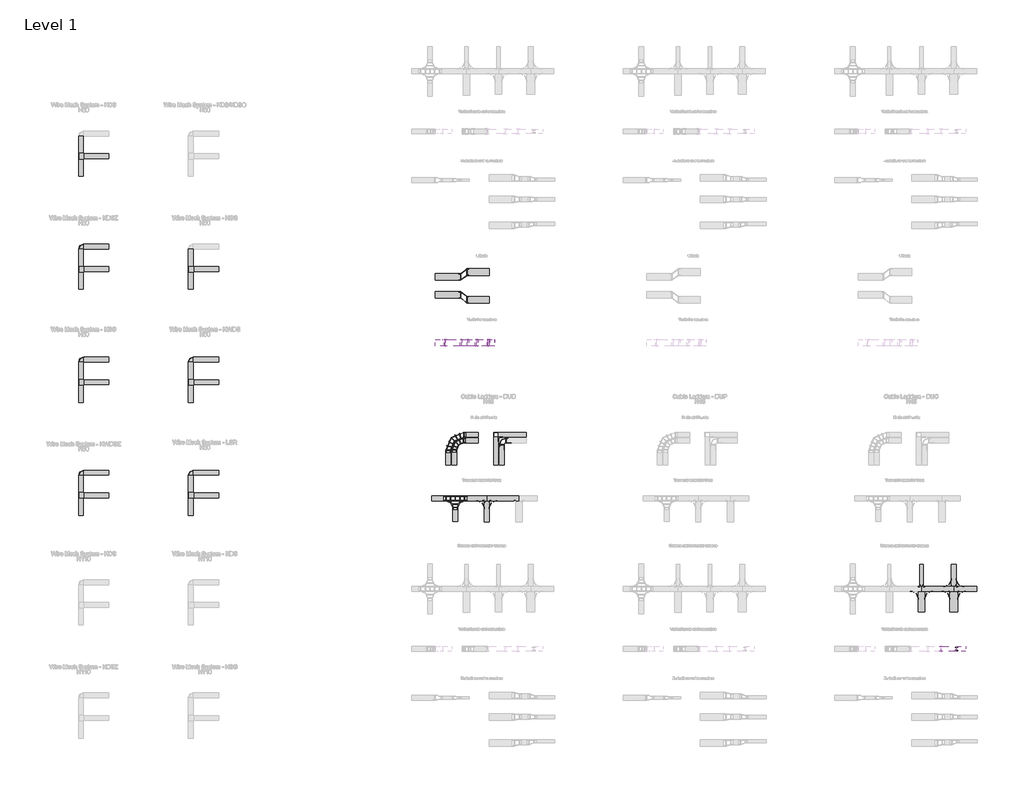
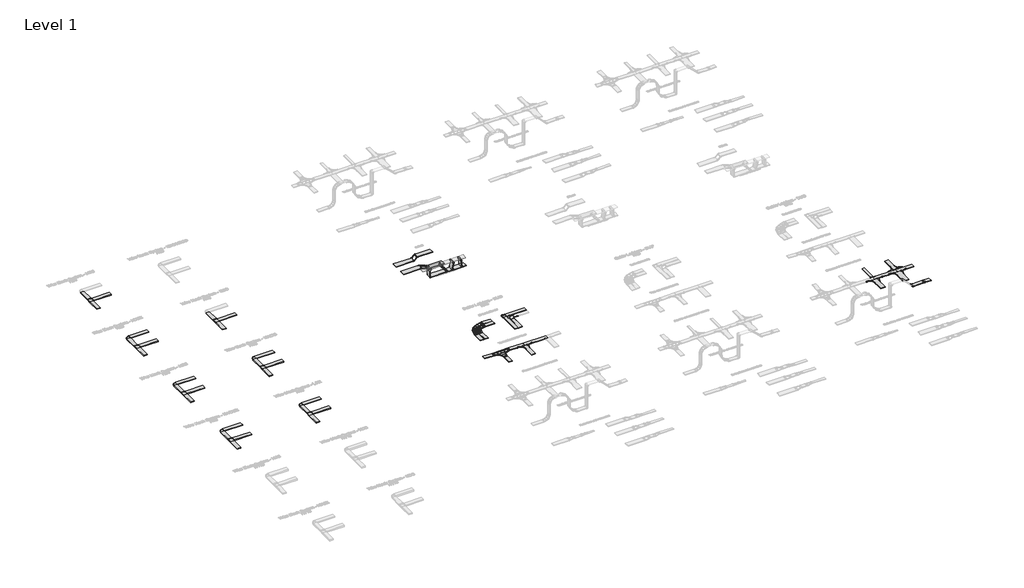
# One storey, part 11 of 106: 63 cable carrier segments, 59 cable carrier fittings.
"""IFC4 building model written with IfcOpenShell, lengths in millimetres."""

from ifc_helpers import new_model, si_unit, frame, origin, origin_with_axes, place, context, project, spatial, polyline, outline, extrude, transform, mapped, element, save
from components import cable_carrier_fitting_ce1f183e, cable_carrier_fitting_5924018d, cable_carrier_fitting_c78842c5, cable_carrier_fitting_c1e814a0, cable_carrier_fitting_6b69b3b7, cable_carrier_fitting_2d894193, cable_carrier_fitting_655502a1, cable_carrier_fitting_0f11f104, cable_carrier_fitting_c89aad98, cable_carrier_fitting_8b1f635d, cable_carrier_fitting_d30d66bc, cable_carrier_fitting_8d7dc52b, cable_carrier_fitting_6c66d9f1, cable_carrier_fitting_4c1293df, cable_carrier_fitting_cb814f34, cable_carrier_fitting_a9217249, cable_carrier_fitting_0282ae3e, cable_carrier_fitting_7be8867b, cable_carrier_fitting_6104b6d9, cable_carrier_fitting_ba505e55, cable_carrier_fitting_958e6ea8, cable_carrier_fitting_c25b36c4, cable_carrier_fitting_df7fb664, cable_carrier_fitting_384de159, cable_carrier_fitting_cef1446e, cable_carrier_fitting_671e1b7f, cable_carrier_fitting_ea2b664d, cable_carrier_fitting_d4fd6989, cable_carrier_fitting_d229e209, cable_carrier_fitting_ca44e503

model = new_model("IFC4")

# Units and contexts
model_context = context("Model", 3, world=origin())
ifc_project = project(units=[si_unit("LENGTHUNIT", "METRE", prefix="MILLI")], contexts=[model_context])

# Site, building, storey
site = spatial("IfcSite", under=ifc_project)
building = spatial("IfcBuilding", under=site)
storey = spatial("IfcBuildingStorey", under=building, Name="Level 1", Elevation=0.0)

# Cable carrier fittings
placement = place(None, origin())
cable_carrier_fitting_shape = cable_carrier_fitting_ce1f183e(model_context)
element("IfcCableCarrierFitting", 1, ObjectType="BAKS_Mesh horizontal bend : KKSZ_H60", at=placement, inside=storey, context=model_context, shape_type="MappedRepresentation", body=[
    mapped(cable_carrier_fitting_shape, transform((5569.4167945, 42270.1887189, 30.0), x_axis=(-1.0, 0.0, 0.0), y_axis=(0.0, -1.0, 0.0), z_axis=(0.0, 0.0, 1.0))),
])
element("IfcCableCarrierFitting", 2, ObjectType="BAKS_Mesh horizontal bend : KKSZ_H60", at=placement, inside=storey, context=model_context, shape_type="MappedRepresentation", body=[
    mapped(cable_carrier_fitting_shape, transform((12269.4167945, 35370.1887189, 30.0), x_axis=(-1.0, 0.0, 0.0), y_axis=(0.0, -1.0, 0.0), z_axis=(0.0, 0.0, 1.0))),
])
element("IfcCableCarrierFitting", 3, ObjectType="BAKS_Mesh horizontal bend : KKSZ_H60", at=placement, inside=storey, context=model_context, shape_type="MappedRepresentation", body=[
    mapped(cable_carrier_fitting_shape, transform((5569.4167945, 35370.1887189, 30.0), x_axis=(-1.0, 0.0, 0.0), y_axis=(0.0, -1.0, 0.0), z_axis=(0.0, 0.0, 1.0))),
])
element("IfcCableCarrierFitting", 4, ObjectType="BAKS_Mesh horizontal bend : KKSZ_H60", at=placement, inside=storey, context=model_context, shape_type="MappedRepresentation", body=[
    mapped(cable_carrier_fitting_shape, transform((12269.4167945, 42270.1887189, 30.0), x_axis=(-1.0, 0.0, 0.0), y_axis=(0.0, -1.0, 0.0), z_axis=(0.0, 0.0, 1.0))),
])
element("IfcCableCarrierFitting", 5, ObjectType="BAKS_Mesh horizontal bend : KKSZ_H60", at=placement, inside=storey, context=model_context, shape_type="MappedRepresentation", body=[
    mapped(cable_carrier_fitting_shape, transform((5569.4167945, 49170.1887189, 30.0), x_axis=(-1.0, 0.0, 0.0), y_axis=(0.0, -1.0, 0.0), z_axis=(0.0, 0.0, 1.0))),
])
cable_carrier_fitting_2_shape = cable_carrier_fitting_5924018d(model_context)
element("IfcCableCarrierFitting", 6, ObjectType="BAKS_Mesh horizontal tee : TKSZ_H60", at=placement, inside=storey, context=model_context, shape_type="MappedRepresentation", body=[
    mapped(cable_carrier_fitting_2_shape, transform((5569.4167945, 54693.1012189, 30.0), x_axis=(0.0, 1.0, 0.0), y_axis=(-1.0, 0.0, 0.0), z_axis=(0.0, 0.0, 1.0))),
])
element("IfcCableCarrierFitting", 7, ObjectType="BAKS_Mesh horizontal tee : TKSZ_H60", at=placement, inside=storey, context=model_context, shape_type="MappedRepresentation", body=[
    mapped(cable_carrier_fitting_2_shape, transform((12269.4167945, 47793.1012189, 30.0), x_axis=(0.0, 1.0, 0.0), y_axis=(-1.0, 0.0, 0.0), z_axis=(0.0, 0.0, 1.0))),
])
element("IfcCableCarrierFitting", 8, ObjectType="BAKS_Mesh horizontal tee : TKSZ_H60", at=placement, inside=storey, context=model_context, shape_type="MappedRepresentation", body=[
    mapped(cable_carrier_fitting_2_shape, transform((5569.4167945, 47793.1012189, 30.0), x_axis=(0.0, 1.0, 0.0), y_axis=(-1.0, 0.0, 0.0), z_axis=(0.0, 0.0, 1.0))),
])
element("IfcCableCarrierFitting", 9, ObjectType="BAKS_Mesh horizontal tee : TKSZ_H60", at=placement, inside=storey, context=model_context, shape_type="MappedRepresentation", body=[
    mapped(cable_carrier_fitting_2_shape, transform((5569.4167945, 40893.1012189, 30.0), x_axis=(0.0, 1.0, 0.0), y_axis=(-1.0, 0.0, 0.0), z_axis=(0.0, 0.0, 1.0))),
])
element("IfcCableCarrierFitting", 10, ObjectType="BAKS_Mesh horizontal tee : TKSZ_H60", at=placement, inside=storey, context=model_context, shape_type="MappedRepresentation", body=[
    mapped(cable_carrier_fitting_2_shape, transform((12269.4167945, 40893.1012189, 30.0), x_axis=(0.0, 1.0, 0.0), y_axis=(-1.0, 0.0, 0.0), z_axis=(0.0, 0.0, 1.0))),
])
element("IfcCableCarrierFitting", 11, ObjectType="BAKS_Mesh horizontal tee : TKSZ_H60", at=placement, inside=storey, context=model_context, shape_type="MappedRepresentation", body=[
    mapped(cable_carrier_fitting_2_shape, transform((12269.4167945, 33993.1012189, 30.0), x_axis=(0.0, 1.0, 0.0), y_axis=(-1.0, 0.0, 0.0), z_axis=(0.0, 0.0, 1.0))),
])
element("IfcCableCarrierFitting", 12, ObjectType="BAKS_Mesh horizontal tee : TKSZ_H60", at=placement, inside=storey, context=model_context, shape_type="MappedRepresentation", body=[
    mapped(cable_carrier_fitting_2_shape, transform((5569.4167945, 33993.1012189, 30.0), x_axis=(0.0, 1.0, 0.0), y_axis=(-1.0, 0.0, 0.0), z_axis=(0.0, 0.0, 1.0))),
])
cable_carrier_fitting_3_shape = cable_carrier_fitting_c78842c5(model_context)
element("IfcCableCarrierFitting", 13, ObjectType="BAKS_LD_CONN_Straight connector_LDC : LDC_H45", at=placement, inside=storey, context=model_context, shape_type="MappedRepresentation", body=[
    mapped(cable_carrier_fitting_3_shape, transform((58984.5221787, 24506.9805429, 1239.8602102), x_axis=(1.0, 0.0, 0.0), y_axis=(0.0, 1.0, 0.0), z_axis=(0.0, 0.0, 1.0))),
])
cable_carrier_fitting_4_shape = cable_carrier_fitting_c1e814a0(model_context)
element("IfcCableCarrierFitting", 14, ObjectType="BAKS_LD_BEND_Articulated connector_LG : LGC_H45", at=placement, inside=storey, context=model_context, shape_type="MappedRepresentation", body=[
    mapped(cable_carrier_fitting_4_shape, transform((58024.5221787, 24456.9805429, 1239.8602102), x_axis=(0.7071067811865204, 0.0, -0.7071067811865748), y_axis=(0.7071067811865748, 0.0, 0.7071067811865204), z_axis=(0.0, -1.0, 0.0))),
])
cable_carrier_fitting_5_shape = cable_carrier_fitting_6b69b3b7(model_context)
element("IfcCableCarrierFitting", 15, ObjectType="BAKS_LD_CONN_Vertical connector light_LPLS : LPLS60", at=placement, inside=storey, context=model_context, shape_type="MappedRepresentation", body=[
    mapped(cable_carrier_fitting_5_shape, transform((27759.0241468, 43507.9361079, 2052.4619182), x_axis=(-1.0, 0.0, 0.0), y_axis=(0.0, 0.0, 1.0), z_axis=(0.0, 1.0, 0.0))),
])
cable_carrier_fitting_6_shape = cable_carrier_fitting_2d894193(model_context)
element("IfcCableCarrierFitting", 16, ObjectType="BAKS_LD_CONN_Angle coupler bendable_LKU : LKUP_H45", at=placement, inside=storey, context=model_context, shape_type="MappedRepresentation", body=[
    mapped(cable_carrier_fitting_6_shape, transform((30180.7849338, 33655.924016, 32.5), x_axis=(1.0, 0.0, 0.0), y_axis=(0.0, 1.0, 0.0), z_axis=(0.0, 0.0, 1.0))),
])
element("IfcCableCarrierFitting", 17, ObjectType="BAKS_LD_CONN_Angle coupler bendable_LKU : LKUP_H45", at=placement, inside=storey, context=model_context, shape_type="MappedRepresentation", body=[
    mapped(cable_carrier_fitting_6_shape, transform((30480.7849338, 33655.924016, 32.5), x_axis=(0.0, 1.0, 0.0), y_axis=(-1.0, 0.0, 0.0), z_axis=(0.0, 0.0, 1.0))),
])
cable_carrier_fitting_7_shape = cable_carrier_fitting_655502a1(model_context)
element("IfcCableCarrierFitting", 18, ObjectType="BAKS_LD_CONN_Angle coupler bendable_LKU : LKUC_H45", at=placement, inside=storey, context=model_context, shape_type="MappedRepresentation", body=[
    mapped(cable_carrier_fitting_7_shape, transform((56950.9231102, 28420.7686574, 32.5), x_axis=(-1.0, 0.0, 0.0), y_axis=(0.0, -1.0, 0.0), z_axis=(0.0, 0.0, 1.0))),
])
element("IfcCableCarrierFitting", 19, ObjectType="BAKS_LD_CONN_Angle coupler bendable_LKU : LKUC_H45", at=placement, inside=storey, context=model_context, shape_type="MappedRepresentation", body=[
    mapped(cable_carrier_fitting_7_shape, transform((56750.9231102, 28420.7686574, 32.5), x_axis=(0.0, -1.0, 0.0), y_axis=(1.0, 0.0, 0.0), z_axis=(0.0, 0.0, 1.0))),
])
element("IfcCableCarrierFitting", 20, ObjectType="BAKS_LD_CONN_Angle coupler bendable_LKU : LKUC_H45", at=placement, inside=storey, context=model_context, shape_type="MappedRepresentation", body=[
    mapped(cable_carrier_fitting_7_shape, transform((56650.9231102, 28120.7686574, 30.0), x_axis=(1.0, 0.0, 0.0), y_axis=(0.0, 1.0, 0.0), z_axis=(0.0, 0.0, 1.0))),
])
element("IfcCableCarrierFitting", 21, ObjectType="BAKS_LD_CONN_Angle coupler bendable_LKU : LKUC_H45", at=placement, inside=storey, context=model_context, shape_type="MappedRepresentation", body=[
    mapped(cable_carrier_fitting_7_shape, transform((58562.2849338, 28120.7686574, 32.5), x_axis=(1.0, 0.0, 0.0), y_axis=(0.0, 1.0, 0.0), z_axis=(0.0, 0.0, 1.0))),
])
element("IfcCableCarrierFitting", 22, ObjectType="BAKS_LD_CONN_Angle coupler bendable_LKU : LKUC_H45", at=placement, inside=storey, context=model_context, shape_type="MappedRepresentation", body=[
    mapped(cable_carrier_fitting_7_shape, transform((59062.2849338, 28120.7686574, 32.5), x_axis=(0.0, 1.0, 0.0), y_axis=(-1.0, 0.0, 0.0), z_axis=(0.0, 0.0, 1.0))),
])
element("IfcCableCarrierFitting", 23, ObjectType="BAKS_LD_CONN_Angle coupler bendable_LKU : LKUC_H45", at=placement, inside=storey, context=model_context, shape_type="MappedRepresentation", body=[
    mapped(cable_carrier_fitting_7_shape, transform((58962.2849338, 28420.7686574, 30.0), x_axis=(-1.0, 0.0, 0.0), y_axis=(0.0, -1.0, 0.0), z_axis=(0.0, 0.0, 1.0))),
])
cable_carrier_fitting_8_shape = cable_carrier_fitting_0f11f104(model_context)
element("IfcCableCarrierFitting", 24, ObjectType="BAKS_LD_CONN_Addon connector_LDDK : LDDKP", at=placement, inside=storey, context=model_context, shape_type="MappedRepresentation", body=[
    mapped(cable_carrier_fitting_8_shape, transform((30180.7849338, 33655.924016, 55.0), x_axis=(1.0, 0.0, 0.0), y_axis=(0.0, 1.0, 0.0), z_axis=(0.0, 0.0, 1.0))),
])
element("IfcCableCarrierFitting", 25, ObjectType="BAKS_LD_CONN_Addon connector_LDDK : LDDKP", at=placement, inside=storey, context=model_context, shape_type="MappedRepresentation", body=[
    mapped(cable_carrier_fitting_8_shape, transform((56650.9231102, 28120.7686574, 55.0), x_axis=(1.0, 0.0, 0.0), y_axis=(0.0, 1.0, 0.0), z_axis=(0.0, 0.0, 1.0))),
])
element("IfcCableCarrierFitting", 26, ObjectType="BAKS_LD_CONN_Addon connector_LDDK : LDDKP", at=placement, inside=storey, context=model_context, shape_type="MappedRepresentation", body=[
    mapped(cable_carrier_fitting_8_shape, transform((58562.2849338, 28120.7686574, 55.0), x_axis=(1.0, 0.0, 0.0), y_axis=(0.0, 1.0, 0.0), z_axis=(0.0, 0.0, 1.0))),
])
element("IfcCableCarrierFitting", 27, ObjectType="BAKS_LD_CONN_Addon connector_LDDK : LDDKP", at=placement, inside=storey, context=model_context, shape_type="MappedRepresentation", body=[
    mapped(cable_carrier_fitting_8_shape, transform((58962.2849338, 28420.7686574, 55.0), x_axis=(-1.0, 0.0, 0.0), y_axis=(0.0, -1.0, 0.0), z_axis=(0.0, 0.0, 1.0))),
])
cable_carrier_fitting_9_shape = cable_carrier_fitting_c89aad98(model_context)
element("IfcCableCarrierFitting", 28, ObjectType="BAKS_LD_CONN_Vertical connector light_LPLS : LPLS60", at=placement, inside=storey, context=model_context, shape_type="MappedRepresentation", body=[
    mapped(cable_carrier_fitting_9_shape, transform((27759.0241468, 43107.9361079, 2052.4619182), x_axis=(-1.0, 0.0, 0.0), y_axis=(0.0, 0.0, -1.0), z_axis=(0.0, -1.0, 0.0))),
])
cable_carrier_fitting_10_shape = cable_carrier_fitting_8b1f635d(model_context)
element("IfcCableCarrierFitting", 29, ObjectType="BAKS_LD_BEND_Horizontal bend_LD : LDP_H45", at=placement, inside=storey, context=model_context, shape_type="MappedRepresentation", body=[
    mapped(cable_carrier_fitting_10_shape, transform((28333.1923304, 37334.0774962, 55.0), x_axis=(-1.0, 0.0, 0.0), y_axis=(0.0, -1.0, 0.0), z_axis=(0.0, 0.0, 1.0))),
])
cable_carrier_fitting_11_shape = cable_carrier_fitting_d30d66bc(model_context)
element("IfcCableCarrierFitting", 30, ObjectType="BAKS_LD_TEE_Ladder horizontal tee_TD : TDP_H45", at=placement, inside=storey, context=model_context, shape_type="MappedRepresentation", body=[
    mapped(cable_carrier_fitting_11_shape, transform((28402.3039726, 33805.924016, 55.0), x_axis=(1.0, 0.0, 0.0), y_axis=(0.0, 1.0, 0.0), z_axis=(0.0, 0.0, 1.0))),
])
cable_carrier_fitting_12_shape = cable_carrier_fitting_8d7dc52b(model_context)
element("IfcCableCarrierFitting", 31, ObjectType="BAKS_LD_CONN_Univarsal connector elbow_LLUS : LLUSP_H45", at=placement, inside=storey, context=model_context, shape_type="MappedRepresentation", body=[
    mapped(cable_carrier_fitting_12_shape, transform((31245.9928229, 37334.0678837, 55.0), x_axis=(-1.0, 0.0, 0.0), y_axis=(0.0, -1.0, 0.0), z_axis=(0.0, 0.0, 1.0))),
])
cable_carrier_fitting_13_shape = cable_carrier_fitting_6c66d9f1(model_context)
element("IfcCableCarrierFitting", 32, ObjectType="BAKS_LD_BEND_Articulated connector_LG : LGT_H45", at=placement, inside=storey, context=model_context, shape_type="MappedRepresentation", body=[
    mapped(cable_carrier_fitting_13_shape, transform((27759.0241468, 43107.9361079, 1334.7815792), x_axis=(0.0, 0.0, -1.0), y_axis=(1.0, 0.0, 0.0), z_axis=(0.0, -1.0, 0.0))),
])
cable_carrier_fitting_14_shape = cable_carrier_fitting_4c1293df(model_context)
element("IfcCableCarrierFitting", 33, ObjectType="BAKS_LD_BEND_Articulated connector_LG : LGT_H45", at=placement, inside=storey, context=model_context, shape_type="MappedRepresentation", body=[
    mapped(cable_carrier_fitting_14_shape, transform((27759.0241468, 43507.9361079, 1334.7815792), x_axis=(0.0, 0.0, -1.0), y_axis=(-1.0, 0.0, 0.0), z_axis=(0.0, 1.0, 0.0))),
])
cable_carrier_fitting_15_shape = cable_carrier_fitting_cb814f34(model_context)
element("IfcCableCarrierFitting", 34, ObjectType="BAKS_LD_BEND_Horizontal bend external_LDZ : LDZP_H45", at=placement, inside=storey, context=model_context, shape_type="MappedRepresentation", body=[
    mapped(cable_carrier_fitting_15_shape, transform((27979.6389398, 37687.6308868, 55.0), x_axis=(-1.0, 0.0, 0.0), y_axis=(0.0, -1.0, 0.0), z_axis=(0.0, 0.0, 1.0))),
])
cable_carrier_fitting_16_shape = cable_carrier_fitting_a9217249(model_context)
element("IfcCableCarrierFitting", 35, ObjectType="BAKS_LD_CONN_Addon connector_LDDK : LDDKP", at=placement, inside=storey, context=model_context, shape_type="MappedRepresentation", body=[
    mapped(cable_carrier_fitting_16_shape, transform((30480.7849338, 33655.924016, 55.0), x_axis=(-1.0, 0.0, 0.0), y_axis=(0.0, -1.0, 0.0), z_axis=(0.0, 0.0, 1.0))),
])
element("IfcCableCarrierFitting", 36, ObjectType="BAKS_LD_CONN_Addon connector_LDDK : LDDKP", at=placement, inside=storey, context=model_context, shape_type="MappedRepresentation", body=[
    mapped(cable_carrier_fitting_16_shape, transform((57050.9231102, 28120.7686574, 55.0), x_axis=(-1.0, 0.0, 0.0), y_axis=(0.0, -1.0, 0.0), z_axis=(0.0, 0.0, 1.0))),
])
element("IfcCableCarrierFitting", 37, ObjectType="BAKS_LD_CONN_Addon connector_LDDK : LDDKP", at=placement, inside=storey, context=model_context, shape_type="MappedRepresentation", body=[
    mapped(cable_carrier_fitting_16_shape, transform((59062.2849338, 28120.7686574, 55.0), x_axis=(-1.0, 0.0, 0.0), y_axis=(0.0, -1.0, 0.0), z_axis=(0.0, 0.0, 1.0))),
])
element("IfcCableCarrierFitting", 38, ObjectType="BAKS_LD_CONN_Addon connector_LDDK : LDDKP", at=placement, inside=storey, context=model_context, shape_type="MappedRepresentation", body=[
    mapped(cable_carrier_fitting_16_shape, transform((58662.2849338, 28420.7686574, 55.0), x_axis=(1.0, 0.0, 0.0), y_axis=(0.0, 1.0, 0.0), z_axis=(0.0, 0.0, 1.0))),
])
cable_carrier_fitting_17_shape = cable_carrier_fitting_0282ae3e(model_context)
element("IfcCableCarrierFitting", 39, ObjectType="BAKS_LD_CONN_Angle connector_LKD : LKDP_H45", at=placement, inside=storey, context=model_context, shape_type="MappedRepresentation", body=[
    mapped(cable_carrier_fitting_17_shape, transform((30742.4394324, 37837.6212743, 55.0), x_axis=(-1.0, 0.0, 0.0), y_axis=(0.0, -1.0, 0.0), z_axis=(0.0, 0.0, 1.0))),
])
cable_carrier_fitting_18_shape = cable_carrier_fitting_7be8867b(model_context)
element("IfcCableCarrierFitting", 40, ObjectType="BAKS_LD_CONN_Angle connector_LKD : LKDP_H45", at=placement, inside=storey, context=model_context, shape_type="MappedRepresentation", body=[
    mapped(cable_carrier_fitting_18_shape, transform((31042.4394324, 37537.6212743, 55.0), x_axis=(-1.0, 0.0, 0.0), y_axis=(0.0, -1.0, 0.0), z_axis=(0.0, 0.0, 1.0))),
])
cable_carrier_fitting_19_shape = cable_carrier_fitting_6104b6d9(model_context)
element("IfcCableCarrierFitting", 41, ObjectType="BAKS_LD_BEND_2 x Angle connector_LKD : 2 x LKDP_H45", at=placement, inside=storey, context=model_context, shape_type="MappedRepresentation", body=[
    mapped(cable_carrier_fitting_19_shape, transform((30892.4394324, 37687.6212743, 55.0), x_axis=(-1.0, 0.0, 0.0), y_axis=(0.0, -1.0, 0.0), z_axis=(0.0, 0.0, 1.0))),
])
cable_carrier_fitting_20_shape = cable_carrier_fitting_ba505e55(model_context)
element("IfcCableCarrierFitting", 42, ObjectType="BAKS_LD_CONN_Univarsal connector offset_LLUS : LLUSP_H45", at=placement, inside=storey, context=model_context, shape_type="MappedRepresentation", body=[
    mapped(cable_carrier_fitting_20_shape, transform((28695.3508196, 47320.3591551, 55.0), x_axis=(1.0, 0.0, 0.0), y_axis=(0.0, 1.0, 0.0), z_axis=(0.0, 0.0, 1.0))),
])
cable_carrier_fitting_21_shape = cable_carrier_fitting_958e6ea8(model_context)
element("IfcCableCarrierFitting", 43, ObjectType="BAKS_LD_CONN_Univarsal connector offset_LLUS : LLUSP_H45", at=placement, inside=storey, context=model_context, shape_type="MappedRepresentation", body=[
    mapped(cable_carrier_fitting_21_shape, transform((28695.3508196, 46220.3591551, 55.0), x_axis=(1.0, 0.0, 0.0), y_axis=(0.0, 1.0, 0.0), z_axis=(0.0, 0.0, 1.0))),
])
cable_carrier_fitting_22_shape = cable_carrier_fitting_c25b36c4(model_context)
element("IfcCableCarrierFitting", 44, ObjectType="BAKS_LD_TEE_Articulated connector attachable_LDD : LDDT_H45", at=placement, inside=storey, context=model_context, shape_type="MappedRepresentation", body=[
    mapped(cable_carrier_fitting_22_shape, transform((28810.266251, 43107.9361079, 1949.9576433), x_axis=(1.0, 0.0, 0.0), y_axis=(0.0, 1.0, 0.0), z_axis=(0.0, 0.0, 1.0))),
])
element("IfcCableCarrierFitting", 45, ObjectType="BAKS_LD_TEE_Articulated connector attachable_LDD : LDDT_H45", at=placement, inside=storey, context=model_context, shape_type="MappedRepresentation", body=[
    mapped(cable_carrier_fitting_22_shape, transform((29128.739213, 43107.9361079, 1412.2815792), x_axis=(-1.0, 0.0, 0.0), y_axis=(0.0, 1.0, 0.0), z_axis=(0.0, 0.0, -1.0))),
])
cable_carrier_fitting_23_shape = cable_carrier_fitting_df7fb664(model_context)
element("IfcCableCarrierFitting", 46, ObjectType="BAKS_LD_TEE_Articulated connector attachable_LDD : LDDT_H45", at=placement, inside=storey, context=model_context, shape_type="MappedRepresentation", body=[
    mapped(cable_carrier_fitting_23_shape, transform((28810.266251, 43507.9361079, 1949.9576433), x_axis=(1.0, 0.0, 0.0), y_axis=(0.0, 1.0, 0.0), z_axis=(0.0, 0.0, 1.0))),
])
element("IfcCableCarrierFitting", 47, ObjectType="BAKS_LD_TEE_Articulated connector attachable_LDD : LDDT_H45", at=placement, inside=storey, context=model_context, shape_type="MappedRepresentation", body=[
    mapped(cable_carrier_fitting_23_shape, transform((29128.739213, 43507.9361079, 1412.2815792), x_axis=(-1.0, 0.0, 0.0), y_axis=(0.0, 1.0, 0.0), z_axis=(0.0, 0.0, -1.0))),
])
cable_carrier_fitting_24_shape = cable_carrier_fitting_384de159(model_context)
element("IfcCableCarrierFitting", 48, ObjectType="BAKS_LD_TEE_Articulated connector attachable_LDD : LDDT_H45", at=placement, inside=storey, context=model_context, shape_type="MappedRepresentation", body=[
    mapped(cable_carrier_fitting_24_shape, transform((29726.8193277, 43507.9361079, 1412.2815792), x_axis=(1.0, 0.0, 0.0), y_axis=(0.0, -1.0, 0.0), z_axis=(0.0, 0.0, -1.0))),
])
element("IfcCableCarrierFitting", 49, ObjectType="BAKS_LD_TEE_Articulated connector attachable_LDD : LDDT_H45", at=placement, inside=storey, context=model_context, shape_type="MappedRepresentation", body=[
    mapped(cable_carrier_fitting_24_shape, transform((29710.4138626, 43507.9361079, 1949.9295622), x_axis=(-1.0, 0.0, 0.0), y_axis=(0.0, -1.0, 0.0), z_axis=(0.0, 0.0, 1.0))),
])
cable_carrier_fitting_25_shape = cable_carrier_fitting_cef1446e(model_context)
element("IfcCableCarrierFitting", 50, ObjectType="BAKS_LD_TEE_Articulated connector attachable_LDD : LDDT_H45", at=placement, inside=storey, context=model_context, shape_type="MappedRepresentation", body=[
    mapped(cable_carrier_fitting_25_shape, transform((29726.8193277, 43107.9361079, 1412.2815792), x_axis=(1.0, 0.0, 0.0), y_axis=(0.0, -1.0, 0.0), z_axis=(0.0, 0.0, -1.0))),
])
element("IfcCableCarrierFitting", 51, ObjectType="BAKS_LD_TEE_Articulated connector attachable_LDD : LDDT_H45", at=placement, inside=storey, context=model_context, shape_type="MappedRepresentation", body=[
    mapped(cable_carrier_fitting_25_shape, transform((29710.4138626, 43107.9361079, 1949.9295622), x_axis=(-1.0, 0.0, 0.0), y_axis=(0.0, -1.0, 0.0), z_axis=(0.0, 0.0, 1.0))),
])
cable_carrier_fitting_26_shape = cable_carrier_fitting_671e1b7f(model_context)
element("IfcCableCarrierFitting", 52, ObjectType="BAKS_LD_TEE_Articulated connector attachable_LDD : LDDT_H45", at=placement, inside=storey, context=model_context, shape_type="MappedRepresentation", body=[
    mapped(cable_carrier_fitting_26_shape, transform((30352.1274343, 43507.9361079, 1949.9576433), x_axis=(-1.0, 0.0, 0.0), y_axis=(0.0, -1.0, 0.0), z_axis=(0.0, 0.0, 1.0))),
])
element("IfcCableCarrierFitting", 53, ObjectType="BAKS_LD_TEE_Articulated connector attachable_LDD : LDDT_H45", at=placement, inside=storey, context=model_context, shape_type="MappedRepresentation", body=[
    mapped(cable_carrier_fitting_26_shape, transform((30507.1274343, 43507.9361079, 1412.2815792), x_axis=(1.0, 0.0, 0.0), y_axis=(0.0, -1.0, 0.0), z_axis=(0.0, 0.0, -1.0))),
])
cable_carrier_fitting_27_shape = cable_carrier_fitting_ea2b664d(model_context)
element("IfcCableCarrierFitting", 54, ObjectType="BAKS_LD_TEE_Articulated connector attachable_LDD : LDDT_H45", at=placement, inside=storey, context=model_context, shape_type="MappedRepresentation", body=[
    mapped(cable_carrier_fitting_27_shape, transform((30352.1274343, 43107.9361079, 1949.9576433), x_axis=(-1.0, 0.0, 0.0), y_axis=(0.0, -1.0, 0.0), z_axis=(0.0, 0.0, 1.0))),
])
element("IfcCableCarrierFitting", 55, ObjectType="BAKS_LD_TEE_Articulated connector attachable_LDD : LDDT_H45", at=placement, inside=storey, context=model_context, shape_type="MappedRepresentation", body=[
    mapped(cable_carrier_fitting_27_shape, transform((30507.1274343, 43107.9361079, 1412.2815792), x_axis=(1.0, 0.0, 0.0), y_axis=(0.0, -1.0, 0.0), z_axis=(0.0, 0.0, -1.0))),
])
cable_carrier_fitting_28_shape = cable_carrier_fitting_d4fd6989(model_context)
element("IfcCableCarrierFitting", 56, ObjectType="BAKS_LD_CONN_Angle coupler bendable_LKU : LKUC_H45", at=placement, inside=storey, context=model_context, shape_type="MappedRepresentation", body=[
    mapped(cable_carrier_fitting_28_shape, transform((57050.9231102, 28120.7686574, 30.0), x_axis=(-1.0, 0.0, 0.0), y_axis=(0.0, -1.0, 0.0), z_axis=(0.0, 0.0, 1.0))),
])
element("IfcCableCarrierFitting", 57, ObjectType="BAKS_LD_CONN_Angle coupler bendable_LKU : LKUC_H45", at=placement, inside=storey, context=model_context, shape_type="MappedRepresentation", body=[
    mapped(cable_carrier_fitting_28_shape, transform((58662.2849338, 28420.7686574, 30.0), x_axis=(1.0, 0.0, 0.0), y_axis=(0.0, 1.0, 0.0), z_axis=(0.0, 0.0, 1.0))),
])
cable_carrier_fitting_29_shape = cable_carrier_fitting_d229e209(model_context)
element("IfcCableCarrierFitting", 58, ObjectType="BAKS_LD_BEND_Articulated connector_LG : LGC_H45", at=placement, inside=storey, context=model_context, shape_type="MappedRepresentation", body=[
    mapped(cable_carrier_fitting_29_shape, transform((58024.5221787, 24756.9805429, 1239.8602102), x_axis=(0.7071067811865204, 0.0, -0.7071067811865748), y_axis=(-0.7071067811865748, 0.0, -0.7071067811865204), z_axis=(0.0, 1.0, 0.0))),
])
cable_carrier_fitting_30_shape = cable_carrier_fitting_ca44e503(model_context)
element("IfcCableCarrierFitting", 59, ObjectType="BAKS_LD_CONN_Straight connector_LDC : LDC_H45", at=placement, inside=storey, context=model_context, shape_type="MappedRepresentation", body=[
    mapped(cable_carrier_fitting_30_shape, transform((58984.5221787, 24706.9805429, 1239.8602102), x_axis=(1.0, 0.0, 0.0), y_axis=(0.0, 1.0, 0.0), z_axis=(0.0, 0.0, 1.0))),
])

# Cable carrier segments
element("IfcCableCarrierSegment", 60, ObjectType="BAKS - Wire mesh tray H60 (KCS)", at=placement, inside=storey, context=model_context, shape_type="SweptSolid", body=[
    extrude(outline(polyline([(5774.4167945, 54543.1012189), (5774.4167945, 54843.1012189), (7269.4167945, 54843.1012189), (7269.4167945, 54543.1012189), (5774.4167945, 54543.1012189)])), origin_with_axes(), (0.0, 0.0, 1.0), 60.0),
])
element("IfcCableCarrierSegment", 61, ObjectType="BAKS - Wire mesh tray H60 (KCS)", at=placement, inside=storey, context=model_context, shape_type="SweptSolid", body=[
    extrude(outline(polyline([(5419.4167945, 54488.1012189), (5719.4167945, 54488.1012189), (5719.4167945, 53470.1887189), (5419.4167945, 53470.1887189), (5419.4167945, 54488.1012189)])), origin_with_axes(), (0.0, 0.0, 1.0), 60.0),
])
element("IfcCableCarrierSegment", 62, ObjectType="BAKS - Wire mesh tray H60 (KDSZ)", at=placement, inside=storey, context=model_context, shape_type="SweptSolid", body=[
    extrude(outline(polyline([(5723.5917945, 49020.1887189), (5723.5917945, 49320.1887189), (7269.4167945, 49320.1887189), (7269.4167945, 49020.1887189), (5723.5917945, 49020.1887189)])), origin_with_axes(), (0.0, 0.0, 1.0), 60.0),
])
element("IfcCableCarrierSegment", 63, ObjectType="BAKS - Wire mesh tray H60 (KDSZ)", at=placement, inside=storey, context=model_context, shape_type="SweptSolid", body=[
    extrude(outline(polyline([(5719.4167945, 47998.1012189), (5419.4167945, 47998.1012189), (5419.4167945, 49016.0137189), (5719.4167945, 49016.0137189), (5719.4167945, 47998.1012189)])), origin_with_axes(), (0.0, 0.0, 1.0), 60.0),
])
element("IfcCableCarrierSegment", 64, ObjectType="BAKS - Wire mesh tray H60 (KDSZ)", at=placement, inside=storey, context=model_context, shape_type="SweptSolid", body=[
    extrude(outline(polyline([(5774.4167945, 47643.1012189), (5774.4167945, 47943.1012189), (7269.4167945, 47943.1012189), (7269.4167945, 47643.1012189), (5774.4167945, 47643.1012189)])), origin_with_axes(), (0.0, 0.0, 1.0), 60.0),
])
element("IfcCableCarrierSegment", 65, ObjectType="BAKS - Wire mesh tray H60 (KGS)", at=placement, inside=storey, context=model_context, shape_type="SweptSolid", body=[
    extrude(outline(polyline([(12474.4167945, 47643.1012189), (12474.4167945, 47943.1012189), (13969.4167945, 47943.1012189), (13969.4167945, 47643.1012189), (12474.4167945, 47643.1012189)])), origin_with_axes(), (0.0, 0.0, 1.0), 60.0),
])
element("IfcCableCarrierSegment", 66, ObjectType="BAKS - Wire mesh tray H60 (KGS)", at=placement, inside=storey, context=model_context, shape_type="SweptSolid", body=[
    extrude(outline(polyline([(12119.4167945, 47588.1012189), (12419.4167945, 47588.1012189), (12419.4167945, 46570.1887189), (12119.4167945, 46570.1887189), (12119.4167945, 47588.1012189)])), origin_with_axes(), (0.0, 0.0, 1.0), 60.0),
])
element("IfcCableCarrierSegment", 67, ObjectType="BAKS - Wire mesh tray H60 (KSG)", at=placement, inside=storey, context=model_context, shape_type="SweptSolid", body=[
    extrude(outline(polyline([(5723.5917945, 42120.1887189), (5723.5917945, 42420.1887189), (7269.4167945, 42420.1887189), (7269.4167945, 42120.1887189), (5723.5917945, 42120.1887189)])), origin_with_axes(), (0.0, 0.0, 1.0), 60.0),
])
element("IfcCableCarrierSegment", 68, ObjectType="BAKS - Wire mesh tray H60 (KSG)", at=placement, inside=storey, context=model_context, shape_type="SweptSolid", body=[
    extrude(outline(polyline([(5774.4167945, 40743.1012189), (5774.4167945, 41043.1012189), (7269.4167945, 41043.1012189), (7269.4167945, 40743.1012189), (5774.4167945, 40743.1012189)])), origin_with_axes(), (0.0, 0.0, 1.0), 60.0),
])
element("IfcCableCarrierSegment", 69, ObjectType="BAKS - Wire mesh tray H60 (KSG)", at=placement, inside=storey, context=model_context, shape_type="SweptSolid", body=[
    extrude(outline(polyline([(5419.4167945, 40688.1012189), (5719.4167945, 40688.1012189), (5719.4167945, 39670.1887189), (5419.4167945, 39670.1887189), (5419.4167945, 40688.1012189)])), origin_with_axes(), (0.0, 0.0, 1.0), 60.0),
])
element("IfcCableCarrierSegment", 70, ObjectType="BAKS - Wire mesh tray H60 (KWDS)", at=placement, inside=storey, context=model_context, shape_type="SweptSolid", body=[
    extrude(outline(polyline([(12423.5917945, 42120.1887189), (12423.5917945, 42420.1887189), (13969.4167945, 42420.1887189), (13969.4167945, 42120.1887189), (12423.5917945, 42120.1887189)])), origin_with_axes(), (0.0, 0.0, 1.0), 60.0),
])
element("IfcCableCarrierSegment", 71, ObjectType="BAKS - Wire mesh tray H60 (KWDS)", at=placement, inside=storey, context=model_context, shape_type="SweptSolid", body=[
    extrude(outline(polyline([(12419.4167945, 41098.1012189), (12119.4167945, 41098.1012189), (12119.4167945, 42116.0137189), (12419.4167945, 42116.0137189), (12419.4167945, 41098.1012189)])), origin_with_axes(), (0.0, 0.0, 1.0), 60.0),
])
element("IfcCableCarrierSegment", 72, ObjectType="BAKS - Wire mesh tray H60 (KWDS)", at=placement, inside=storey, context=model_context, shape_type="SweptSolid", body=[
    extrude(outline(polyline([(12474.4167945, 40743.1012189), (12474.4167945, 41043.1012189), (13969.4167945, 41043.1012189), (13969.4167945, 40743.1012189), (12474.4167945, 40743.1012189)])), origin_with_axes(), (0.0, 0.0, 1.0), 60.0),
])
element("IfcCableCarrierSegment", 73, ObjectType="BAKS - Wire mesh tray H60 (KWDSZ)", at=placement, inside=storey, context=model_context, shape_type="SweptSolid", body=[
    extrude(outline(polyline([(5723.5917945, 35220.1887189), (5723.5917945, 35520.1887189), (7269.4167945, 35520.1887189), (7269.4167945, 35220.1887189), (5723.5917945, 35220.1887189)])), origin_with_axes(), (0.0, 0.0, 1.0), 60.0),
])
element("IfcCableCarrierSegment", 74, ObjectType="BAKS - Wire mesh tray H60 (KWDSZ)", at=placement, inside=storey, context=model_context, shape_type="SweptSolid", body=[
    extrude(outline(polyline([(5774.4167945, 33843.1012189), (5774.4167945, 34143.1012189), (7269.4167945, 34143.1012189), (7269.4167945, 33843.1012189), (5774.4167945, 33843.1012189)])), origin_with_axes(), (0.0, 0.0, 1.0), 60.0),
])
element("IfcCableCarrierSegment", 75, ObjectType="BAKS - Wire mesh tray H60 (KWDSZ)", at=placement, inside=storey, context=model_context, shape_type="SweptSolid", body=[
    extrude(outline(polyline([(5419.4167945, 33788.1012189), (5719.4167945, 33788.1012189), (5719.4167945, 32770.1887189), (5419.4167945, 32770.1887189), (5419.4167945, 33788.1012189)])), origin_with_axes(), (0.0, 0.0, 1.0), 60.0),
])
element("IfcCableCarrierSegment", 76, ObjectType="BAKS - Wire mesh tray H60 (LSR)", at=placement, inside=storey, context=model_context, shape_type="SweptSolid", body=[
    extrude(outline(polyline([(12423.5917945, 35220.1887189), (12423.5917945, 35520.1887189), (13969.4167945, 35520.1887189), (13969.4167945, 35220.1887189), (12423.5917945, 35220.1887189)])), origin_with_axes(), (0.0, 0.0, 1.0), 60.0),
])
element("IfcCableCarrierSegment", 77, ObjectType="BAKS - Wire mesh tray H60 (LSR)", at=placement, inside=storey, context=model_context, shape_type="SweptSolid", body=[
    extrude(outline(polyline([(12474.4167945, 33843.1012189), (12474.4167945, 34143.1012189), (13969.4167945, 34143.1012189), (13969.4167945, 33843.1012189), (12474.4167945, 33843.1012189)])), origin_with_axes(), (0.0, 0.0, 1.0), 60.0),
])
element("IfcCableCarrierSegment", 78, ObjectType="BAKS - Wire mesh tray H60 (LSR)", at=placement, inside=storey, context=model_context, shape_type="SweptSolid", body=[
    extrude(outline(polyline([(12119.4167945, 33788.1012189), (12419.4167945, 33788.1012189), (12419.4167945, 32770.1887189), (12119.4167945, 32770.1887189), (12119.4167945, 33788.1012189)])), origin_with_axes(), (0.0, 0.0, 1.0), 60.0),
])
element("IfcCableCarrierSegment", 79, ObjectType="BAKS - Wire mesh tray H60 (KCS)", at=placement, inside=storey, context=model_context, shape_type="SweptSolid", body=[
    extrude(outline(polyline([(5419.4167945, 55916.0137189), (5719.4167945, 55916.0137189), (5719.4167945, 54898.1012189), (5419.4167945, 54898.1012189), (5419.4167945, 55916.0137189)])), origin_with_axes(), (0.0, 0.0, 1.0), 60.0),
])
element("IfcCableCarrierSegment", 80, ObjectType="BAKS - Wire mesh tray H60 (KGS)", at=placement, inside=storey, context=model_context, shape_type="SweptSolid", body=[
    extrude(outline(polyline([(12119.4167945, 49016.0137189), (12419.4167945, 49016.0137189), (12419.4167945, 47998.1012189), (12119.4167945, 47998.1012189), (12119.4167945, 49016.0137189)])), origin_with_axes(), (0.0, 0.0, 1.0), 60.0),
])
element("IfcCableCarrierSegment", 81, ObjectType="BAKS - Wire mesh tray H60 (KDSZ)", at=placement, inside=storey, context=model_context, shape_type="SweptSolid", body=[
    extrude(outline(polyline([(5719.4167945, 46570.1887189), (5419.4167945, 46570.1887189), (5419.4167945, 47588.1012189), (5719.4167945, 47588.1012189), (5719.4167945, 46570.1887189)])), origin_with_axes(), (0.0, 0.0, 1.0), 60.0),
])
element("IfcCableCarrierSegment", 82, ObjectType="BAKS - Wire mesh tray H60 (KSG)", at=placement, inside=storey, context=model_context, shape_type="SweptSolid", body=[
    extrude(outline(polyline([(5419.4167945, 42116.0137189), (5719.4167945, 42116.0137189), (5719.4167945, 41098.1012189), (5419.4167945, 41098.1012189), (5419.4167945, 42116.0137189)])), origin_with_axes(), (0.0, 0.0, 1.0), 60.0),
])
element("IfcCableCarrierSegment", 83, ObjectType="BAKS - Wire mesh tray H60 (KWDS)", at=placement, inside=storey, context=model_context, shape_type="SweptSolid", body=[
    extrude(outline(polyline([(12419.4167945, 39670.1887189), (12119.4167945, 39670.1887189), (12119.4167945, 40688.1012189), (12419.4167945, 40688.1012189), (12419.4167945, 39670.1887189)])), origin_with_axes(), (0.0, 0.0, 1.0), 60.0),
])
element("IfcCableCarrierSegment", 84, ObjectType="BAKS - Wire mesh tray H60 (LSR)", at=placement, inside=storey, context=model_context, shape_type="SweptSolid", body=[
    extrude(outline(polyline([(12119.4167945, 35216.0137189), (12419.4167945, 35216.0137189), (12419.4167945, 34198.1012189), (12119.4167945, 34198.1012189), (12119.4167945, 35216.0137189)])), origin_with_axes(), (0.0, 0.0, 1.0), 60.0),
])
element("IfcCableCarrierSegment", 85, ObjectType="BAKS - Wire mesh tray H60 (KWDSZ)", at=placement, inside=storey, context=model_context, shape_type="SweptSolid", body=[
    extrude(outline(polyline([(5419.4167945, 35216.0137189), (5719.4167945, 35216.0137189), (5719.4167945, 34198.1012189), (5419.4167945, 34198.1012189), (5419.4167945, 35216.0137189)])), origin_with_axes(), (0.0, 0.0, 1.0), 60.0),
])
element("IfcCableCarrierSegment", 86, ObjectType="BAKS - Ladder H45 (DKD)", at=placement, inside=storey, context=model_context, shape_type="SweptSolid", body=[
    extrude(outline(polyline([(27195.3508196, 47120.3591551), (27195.3508196, 47520.3591551), (28695.3508196, 47520.3591551), (28695.3508196, 47120.3591551), (27195.3508196, 47120.3591551)])), frame((0.0, 0.0, 32.5), z_axis=(0.0, 0.0, 1.0), x_axis=(1.0, 0.0, 0.0)), (0.0, 0.0, 1.0), 45.0),
])
element("IfcCableCarrierSegment", 87, ObjectType="BAKS - Ladder H45 (DKD)", at=placement, inside=storey, context=model_context, shape_type="SweptSolid", body=[
    extrude(outline(polyline([(29155.3508196, 47420.3591551), (29155.3508196, 47820.3591551), (30465.5222547, 47820.3591551), (30465.5222547, 47420.3591551), (29155.3508196, 47420.3591551)])), frame((0.0, 0.0, 32.5), z_axis=(0.0, 0.0, 1.0), x_axis=(1.0, 0.0, 0.0)), (0.0, 0.0, 1.0), 45.0),
])
element("IfcCableCarrierSegment", 88, ObjectType="BAKS - Ladder H45 (DKD)", at=placement, inside=storey, context=model_context, shape_type="SweptSolid", body=[
    extrude(outline(polyline([(27195.3508196, 46020.3591551), (27195.3508196, 46420.3591551), (28695.3508196, 46420.3591551), (28695.3508196, 46020.3591551), (27195.3508196, 46020.3591551)])), frame((0.0, 0.0, 32.5), z_axis=(0.0, 0.0, 1.0), x_axis=(1.0, 0.0, 0.0)), (0.0, 0.0, 1.0), 45.0),
])
element("IfcCableCarrierSegment", 89, ObjectType="BAKS - Ladder H45 (DKD)", at=placement, inside=storey, context=model_context, shape_type="SweptSolid", body=[
    extrude(outline(polyline([(29155.3508196, 45720.3591551), (29155.3508196, 46120.3591551), (30465.5222547, 46120.3591551), (30465.5222547, 45720.3591551), (29155.3508196, 45720.3591551)])), frame((0.0, 0.0, 32.5), z_axis=(0.0, 0.0, 1.0), x_axis=(1.0, 0.0, 0.0)), (0.0, 0.0, 1.0), 45.0),
])
element("IfcCableCarrierSegment", 90, ObjectType="BAKS - Ladder H45 (DKD)", at=placement, inside=storey, context=model_context, shape_type="SweptSolid", body=[
    extrude(outline(polyline([(30354.6274343, 43107.9361079), (30354.6274343, 43507.9361079), (30792.766251, 43507.9361079), (30792.766251, 43107.9361079), (30354.6274343, 43107.9361079)])), frame((0.0, 0.0, 2004.9576433), z_axis=(0.0, 0.0, 1.0), x_axis=(1.0, 0.0, 0.0)), (0.0, 0.0, 1.0), 45.0),
])
element("IfcCableCarrierSegment", 91, ObjectType="BAKS - Ladder H45 (DKD)", at=placement, inside=storey, context=model_context, shape_type="SweptSolid", body=[
    extrude(outline(polyline([(27195.3508196, 43107.9361079), (27195.3508196, 43507.9361079), (27756.5241468, 43507.9361079), (27756.5241468, 43107.9361079), (27195.3508196, 43107.9361079)])), frame((0.0, 0.0, 2004.9576433), z_axis=(0.0, 0.0, 1.0), x_axis=(1.0, 0.0, 0.0)), (0.0, 0.0, 1.0), 45.0),
])
element("IfcCableCarrierSegment", 92, ObjectType="BAKS - Ladder H45 (DKD)", at=placement, inside=storey, context=model_context, shape_type="SweptSolid", body=[
    extrude(outline(polyline([(27761.5241468, 43107.9361079), (27761.5241468, 43507.9361079), (28807.766251, 43507.9361079), (28807.766251, 43107.9361079), (27761.5241468, 43107.9361079)])), frame((0.0, 0.0, 2004.9576433), z_axis=(0.0, 0.0, 1.0), x_axis=(1.0, 0.0, 0.0)), (0.0, 0.0, 1.0), 45.0),
])
element("IfcCableCarrierSegment", 93, ObjectType="BAKS - Ladder H45 (DKD)", at=placement, inside=storey, context=model_context, shape_type="SweptSolid", body=[
    extrude(outline(polyline([(30509.6274343, 43107.9361079), (30509.6274343, 43507.9361079), (30817.5103913, 43507.9361079), (30817.5103913, 43107.9361079), (30509.6274343, 43107.9361079)])), frame((0.0, 0.0, 1312.2815792), z_axis=(0.0, 0.0, 1.0), x_axis=(1.0, 0.0, 0.0)), (0.0, 0.0, 1.0), 45.0),
])
element("IfcCableCarrierSegment", 94, ObjectType="BAKS - Ladder H45 (DKD)", at=placement, inside=storey, context=model_context, shape_type="SweptSolid", body=[
    extrude(outline(polyline([(0.0, -400.0), (0.0, 0.0), (705.3887821, 0.0), (705.3887821, -400.0), (0.0, -400.0)])), frame((28704.2002338, 43507.9361079, 1914.6023043), z_axis=(0.7071067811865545, 0.0, 0.7071067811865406), x_axis=(0.7071067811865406, 0.0, -0.7071067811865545)), (0.0, 0.0, 1.0), 45.0),
])
element("IfcCableCarrierSegment", 95, ObjectType="BAKS - Ladder H45 (DKD)", at=placement, inside=storey, context=model_context, shape_type="SweptSolid", body=[
    extrude(outline(polyline([(29131.239213, 43107.9361079), (29131.239213, 43507.9361079), (29724.3193277, 43507.9361079), (29724.3193277, 43107.9361079), (29131.239213, 43107.9361079)])), frame((0.0, 0.0, 1312.2815792), z_axis=(0.0, 0.0, 1.0), x_axis=(1.0, 0.0, 0.0)), (0.0, 0.0, 1.0), 45.0),
])
element("IfcCableCarrierSegment", 96, ObjectType="BAKS - Ladder H45 (DKD)", at=placement, inside=storey, context=model_context, shape_type="SweptSolid", body=[
    extrude(outline(polyline([(0.0, -399.9999999), (0.0, 0.0), (895.147612, 0.0), (895.147612, -399.9999999), (0.0, -399.9999999)])), frame((28812.7655452, 43507.9361079, 2004.9576434), z_axis=(3.1370388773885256e-05, 0.0, 0.9999999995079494), x_axis=(0.9999999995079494, 0.0, -3.1370388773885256e-05)), (0.0, 0.0, 1.0), 45.0),
])
element("IfcCableCarrierSegment", 97, ObjectType="BAKS - Ladder H45 (DKD)", at=placement, inside=storey, context=model_context, shape_type="SweptSolid", body=[
    extrude(outline(polyline([(22.4999999, -1.2616457), (22.4999999, -401.2616457), (-22.5, -401.2616457), (-22.5, -1.2616457), (22.4999999, -1.2616457)])), frame((29639.019124, 43509.1977536, 1384.0437639), z_axis=(0.2588190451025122, 0.0, 0.9659258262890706), x_axis=(0.9659258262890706, 0.0, -0.2588190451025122)), (0.0, 0.0, 1.0), 615.0820254),
])
element("IfcCableCarrierSegment", 98, ObjectType="BAKS - Ladder H45 (DKD)", at=placement, inside=storey, context=model_context, shape_type="SweptSolid", body=[
    extrude(outline(polyline([(0.0, -399.9999997), (0.0, 0.0), (636.7135722, 0.0), (636.7135722, -399.9999997), (0.0, -399.9999997)])), frame((29712.914855, 43507.9361078, 2004.9295622), z_axis=(-4.410323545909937e-05, 0.0, 0.9999999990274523), x_axis=(0.9999999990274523, 0.0, 4.410323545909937e-05)), (0.0, 0.0, 1.0), 45.0),
])
element("IfcCableCarrierSegment", 99, ObjectType="BAKS - Ladder H45 (DKD)", at=placement, inside=storey, context=model_context, shape_type="SweptSolid", body=[
    extrude(outline(polyline([(29729.3193277, 43107.9361079), (29729.3193277, 43507.9361079), (30504.6274343, 43507.9361079), (30504.6274343, 43107.9361079), (29729.3193277, 43107.9361079)])), frame((0.0, 0.0, 1312.2815792), z_axis=(0.0, 0.0, 1.0), x_axis=(1.0, 0.0, 0.0)), (0.0, 0.0, 1.0), 45.0),
])
element("IfcCableCarrierSegment", 100, ObjectType="BAKS - Ladder H45 (DKD)", at=placement, inside=storey, context=model_context, shape_type="SweptSolid", body=[
    extrude(outline(polyline([(30407.1274343, 43507.9361079), (30452.1274343, 43507.9361079), (30452.1274343, 43107.9361079), (30407.1274343, 43107.9361079), (30407.1274343, 43507.9361079)])), frame((0.0, 0.0, 1362.2815792), z_axis=(0.0, 0.0, 1.0), x_axis=(1.0, 0.0, 0.0)), (0.0, 0.0, 1.0), 637.6760641),
])
element("IfcCableCarrierSegment", 101, ObjectType="BAKS - Ladder H45 (DKD)", at=placement, inside=storey, context=model_context, shape_type="SweptSolid", body=[
    extrude(outline(polyline([(27736.5241468, 43107.9361079), (27736.5241468, 43507.9361079), (27781.5241468, 43507.9361079), (27781.5241468, 43107.9361079), (27736.5241468, 43107.9361079)])), frame((0.0, 0.0, 1359.7815792), z_axis=(0.0, 0.0, 1.0), x_axis=(1.0, 0.0, 0.0)), (0.0, 0.0, 1.0), 612.680339),
])
element("IfcCableCarrierSegment", 102, ObjectType="BAKS - Ladder H45 (DKD)", at=placement, inside=storey, context=model_context, shape_type="SweptSolid", body=[
    extrude(outline(polyline([(29126.239213, 43507.9361079), (29126.239213, 43107.9361079), (27784.0241468, 43107.9361079), (27784.0241468, 43507.9361079), (29126.239213, 43507.9361079)])), frame((0.0, 0.0, 1312.2815792), z_axis=(0.0, 0.0, 1.0), x_axis=(1.0, 0.0, 0.0)), (0.0, 0.0, 1.0), 45.0),
])
element("IfcCableCarrierSegment", 103, ObjectType="BAKS - Ladder H45 (DUD)", at=placement, inside=storey, context=model_context, shape_type="SweptSolid", body=[
    extrude(outline(polyline([(29053.1923304, 37184.0774962), (29053.1923304, 37484.0774962), (29810.6923304, 37484.0774962), (29810.6923304, 37184.0774962), (29053.1923304, 37184.0774962)])), frame((0.0, 0.0, 32.5), z_axis=(0.0, 0.0, 1.0), x_axis=(1.0, 0.0, 0.0)), (0.0, 0.0, 1.0), 45.0),
])
element("IfcCableCarrierSegment", 104, ObjectType="BAKS - Ladder H45 (DUD)", at=placement, inside=storey, context=model_context, shape_type="SweptSolid", body=[
    extrude(outline(polyline([(28183.1923304, 36614.0774962), (28483.1923304, 36614.0774962), (28483.1923304, 35834.0774962), (28183.1923304, 35834.0774962), (28183.1923304, 36614.0774962)])), frame((0.0, 0.0, 32.5), z_axis=(0.0, 0.0, 1.0), x_axis=(1.0, 0.0, 0.0)), (0.0, 0.0, 1.0), 45.0),
])
element("IfcCableCarrierSegment", 105, ObjectType="BAKS - Ladder H45 (DUD)", at=placement, inside=storey, context=model_context, shape_type="SweptSolid", body=[
    extrude(outline(polyline([(29079.6389398, 37537.6308868), (29079.6389398, 37837.6308868), (29810.6923304, 37837.6308868), (29810.6923304, 37537.6308868), (29079.6389398, 37537.6308868)])), frame((0.0, 0.0, 32.5), z_axis=(0.0, 0.0, 1.0), x_axis=(1.0, 0.0, 0.0)), (0.0, 0.0, 1.0), 45.0),
])
element("IfcCableCarrierSegment", 106, ObjectType="BAKS - Ladder H45 (DUD)", at=placement, inside=storey, context=model_context, shape_type="SweptSolid", body=[
    extrude(outline(polyline([(27829.6389398, 36587.6308868), (28129.6389398, 36587.6308868), (28129.6389398, 35834.0774962), (27829.6389398, 35834.0774962), (27829.6389398, 36587.6308868)])), frame((0.0, 0.0, 32.5), z_axis=(0.0, 0.0, 1.0), x_axis=(1.0, 0.0, 0.0)), (0.0, 0.0, 1.0), 45.0),
])
element("IfcCableCarrierSegment", 107, ObjectType="BAKS - Ladder H45 (DUD)", at=placement, inside=storey, context=model_context, shape_type="SweptSolid", body=[
    extrude(outline(polyline([(28252.3039726, 33085.924016), (28552.3039726, 33085.924016), (28552.3039726, 32405.924016), (28252.3039726, 32405.924016), (28252.3039726, 33085.924016)])), frame((0.0, 0.0, 32.5), z_axis=(0.0, 0.0, 1.0), x_axis=(1.0, 0.0, 0.0)), (0.0, 0.0, 1.0), 45.0),
])
element("IfcCableCarrierSegment", 108, ObjectType="BAKS - Ladder H45 (DUD)", at=placement, inside=storey, context=model_context, shape_type="SweptSolid", body=[
    extrude(outline(polyline([(26964.3823889, 33655.924016), (26964.3823889, 33955.924016), (27682.3039726, 33955.924016), (27682.3039726, 33655.924016), (26964.3823889, 33655.924016)])), frame((0.0, 0.0, 32.5), z_axis=(0.0, 0.0, 1.0), x_axis=(1.0, 0.0, 0.0)), (0.0, 0.0, 1.0), 45.0),
])
element("IfcCableCarrierSegment", 109, ObjectType="BAKS - Ladder H45 (DUD)", at=placement, inside=storey, context=model_context, shape_type="SweptSolid", body=[
    extrude(outline(polyline([(30180.7849338, 33625.924016), (30480.7849338, 33625.924016), (30480.7849338, 32355.924016), (30180.7849338, 32355.924016), (30180.7849338, 33625.924016)])), frame((0.0, 0.0, 32.5), z_axis=(0.0, 0.0, 1.0), x_axis=(1.0, 0.0, 0.0)), (0.0, 0.0, 1.0), 45.0),
])
element("IfcCableCarrierSegment", 110, ObjectType="BAKS - Ladder H45 (DUD)", at=placement, inside=storey, context=model_context, shape_type="SweptSolid", body=[
    extrude(outline(polyline([(29122.3039726, 33655.924016), (29122.3039726, 33955.924016), (30329.2849338, 33955.924016), (30329.2849338, 33655.924016), (29122.3039726, 33655.924016)])), frame((0.0, 0.0, 32.5), z_axis=(0.0, 0.0, 1.0), x_axis=(1.0, 0.0, 0.0)), (0.0, 0.0, 1.0), 45.0),
])
element("IfcCableCarrierSegment", 111, ObjectType="BAKS - Ladder H45 (DUD)", at=placement, inside=storey, context=model_context, shape_type="SweptSolid", body=[
    extrude(outline(polyline([(30332.2849338, 33655.924016), (30332.2849338, 33955.924016), (32287.9231102, 33955.924016), (32287.9231102, 33655.924016), (30332.2849338, 33655.924016)])), frame((0.0, 0.0, 32.5), z_axis=(0.0, 0.0, 1.0), x_axis=(1.0, 0.0, 0.0)), (0.0, 0.0, 1.0), 45.0),
])
element("IfcCableCarrierSegment", 112, ObjectType="BAKS - Ladder H45 (DUD)", at=placement, inside=storey, context=model_context, shape_type="SweptSolid", body=[
    extrude(outline(polyline([(31095.9928229, 37044.0678837), (31395.9928229, 37044.0678837), (31395.9928229, 35834.0678837), (31095.9928229, 35834.0678837), (31095.9928229, 37044.0678837)])), frame((0.0, 0.0, 32.5), z_axis=(0.0, 0.0, 1.0), x_axis=(1.0, 0.0, 0.0)), (0.0, 0.0, 1.0), 45.0),
])
element("IfcCableCarrierSegment", 113, ObjectType="BAKS - Ladder H45 (DUD)", at=placement, inside=storey, context=model_context, shape_type="SweptSolid", body=[
    extrude(outline(polyline([(31042.4383287, 37537.6336431), (31042.440536, 37837.6336431), (32723.4939266, 37837.6212743), (32723.4917193, 37537.6212743), (31042.4383287, 37537.6336431)])), frame((0.0, 0.0, 32.5), z_axis=(0.0, 0.0, 1.0), x_axis=(1.0, 0.0, 0.0)), (0.0, 0.0, 1.0), 45.0),
])
element("IfcCableCarrierSegment", 114, ObjectType="BAKS - Ladder H45 (DUD)", at=placement, inside=storey, context=model_context, shape_type="SweptSolid", body=[
    extrude(outline(polyline([(30742.4274879, 37537.6325914), (31042.4274879, 37537.6346948), (31042.4394324, 35834.0689354), (30742.4394324, 35834.066832), (30742.4274879, 37537.6325914)])), frame((0.0, 0.0, 32.5), z_axis=(0.0, 0.0, 1.0), x_axis=(1.0, 0.0, 0.0)), (0.0, 0.0, 1.0), 45.0),
])
element("IfcCableCarrierSegment", 115, ObjectType="BAKS - Ladder H45 (DUC)", at=placement, inside=storey, context=model_context, shape_type="SweptSolid", body=[
    extrude(outline(polyline([(56852.4231102, 28120.7686574), (56852.4231102, 28420.7686574), (58810.7849338, 28420.7686574), (58810.7849338, 28120.7686574), (56852.4231102, 28120.7686574)])), frame((0.0, 0.0, 32.5), z_axis=(0.0, 0.0, 1.0), x_axis=(1.0, 0.0, 0.0)), (0.0, 0.0, 1.0), 45.0),
])
element("IfcCableCarrierSegment", 116, ObjectType="BAKS - Ladder H45 (DUC)", at=placement, inside=storey, context=model_context, shape_type="SweptSolid", body=[
    extrude(outline(polyline([(56950.9231102, 28450.7686574), (56750.9231102, 28450.7686574), (56750.9231102, 29770.7686574), (56950.9231102, 29770.7686574), (56950.9231102, 28450.7686574)])), frame((0.0, 0.0, 32.5), z_axis=(0.0, 0.0, 1.0), x_axis=(1.0, 0.0, 0.0)), (0.0, 0.0, 1.0), 45.0),
])
element("IfcCableCarrierSegment", 117, ObjectType="BAKS - Ladder H45 (DUC)", at=placement, inside=storey, context=model_context, shape_type="SweptSolid", body=[
    extrude(outline(polyline([(56650.9231102, 28090.7686574), (57050.9231102, 28090.7686574), (57050.9231102, 26870.7686574), (56650.9231102, 26870.7686574), (56650.9231102, 28090.7686574)])), frame((0.0, 0.0, 32.5), z_axis=(0.0, 0.0, 1.0), x_axis=(1.0, 0.0, 0.0)), (0.0, 0.0, 1.0), 45.0),
])
element("IfcCableCarrierSegment", 118, ObjectType="BAKS - Ladder H45 (DUC)", at=placement, inside=storey, context=model_context, shape_type="SweptSolid", body=[
    extrude(outline(polyline([(58813.7849338, 28120.7686574), (58813.7849338, 28420.7686574), (60213.7849338, 28420.7686574), (60213.7849338, 28120.7686574), (58813.7849338, 28120.7686574)])), frame((0.0, 0.0, 32.5), z_axis=(0.0, 0.0, 1.0), x_axis=(1.0, 0.0, 0.0)), (0.0, 0.0, 1.0), 45.0),
])
element("IfcCableCarrierSegment", 119, ObjectType="BAKS - Ladder H45 (DUC)", at=placement, inside=storey, context=model_context, shape_type="SweptSolid", body=[
    extrude(outline(polyline([(58962.2849338, 28450.7686574), (58662.2849338, 28450.7686574), (58662.2849338, 29770.7686574), (58962.2849338, 29770.7686574), (58962.2849338, 28450.7686574)])), frame((0.0, 0.0, 32.5), z_axis=(0.0, 0.0, 1.0), x_axis=(1.0, 0.0, 0.0)), (0.0, 0.0, 1.0), 45.0),
])
element("IfcCableCarrierSegment", 120, ObjectType="BAKS - Ladder H45 (DUC)", at=placement, inside=storey, context=model_context, shape_type="SweptSolid", body=[
    extrude(outline(polyline([(58562.2849338, 28090.7686574), (59062.2849338, 28090.7686574), (59062.2849338, 26870.7686574), (58562.2849338, 26870.7686574), (58562.2849338, 28090.7686574)])), frame((0.0, 0.0, 32.5), z_axis=(0.0, 0.0, 1.0), x_axis=(1.0, 0.0, 0.0)), (0.0, 0.0, 1.0), 45.0),
])
element("IfcCableCarrierSegment", 121, ObjectType="BAKS - Ladder H45 (DUC)", at=placement, inside=storey, context=model_context, shape_type="SweptSolid", body=[
    extrude(outline(polyline([(58985.5221787, 24456.9805429), (58985.5221787, 24756.9805429), (59544.5221787, 24756.9805429), (59544.5221787, 24456.9805429), (58985.5221787, 24456.9805429)])), frame((0.0, 0.0, 1217.3602102), z_axis=(0.0, 0.0, 1.0), x_axis=(1.0, 0.0, 0.0)), (0.0, 0.0, 1.0), 45.0),
])
element("IfcCableCarrierSegment", 122, ObjectType="BAKS - Ladder H45 (DUC)", at=placement, inside=storey, context=model_context, shape_type="SweptSolid", body=[
    extrude(outline(polyline([(58049.5221787, 24456.9805429), (58049.5221787, 24756.9805429), (58984.5221787, 24756.9805429), (58984.5221787, 24456.9805429), (58049.5221787, 24456.9805429)])), frame((0.0, 0.0, 1217.3602102), z_axis=(0.0, 0.0, 1.0), x_axis=(1.0, 0.0, 0.0)), (0.0, 0.0, 1.0), 45.0),
])

save(model, "model.ifc")
